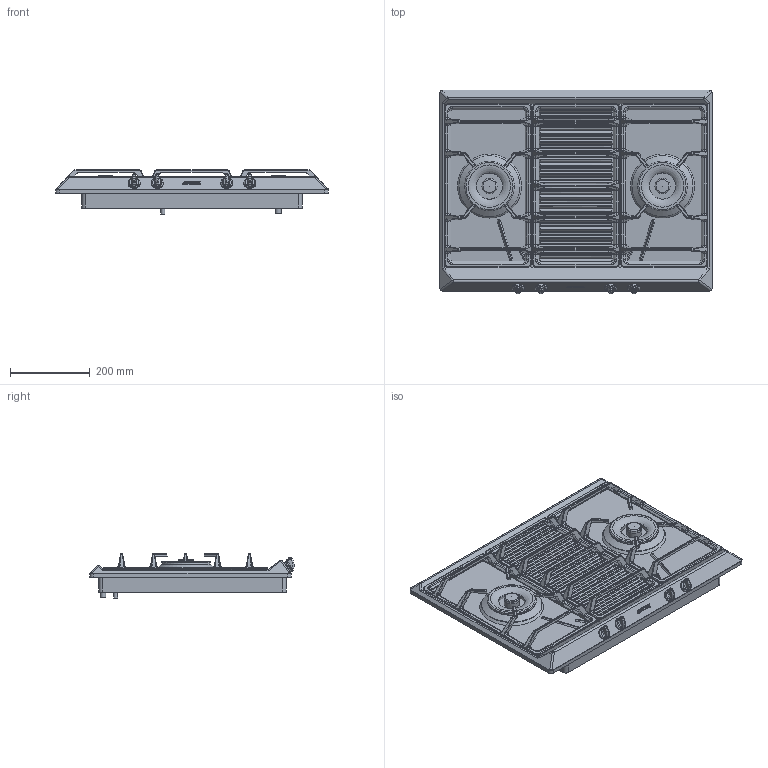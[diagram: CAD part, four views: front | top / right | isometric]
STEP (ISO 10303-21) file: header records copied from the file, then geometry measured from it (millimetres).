
FILE_DESCRIPTION(/* description */ (''),/* implementation_level */ '2;1');
FILE_NAME(/* name */ 'piano srv572xg.stp',/* time_stamp */ '2019-02-27T09:43:30+01:00',/* author */ (''),/* organization */ (''),/* preprocessor_version */ 'ST-DEVELOPER v16',/* originating_system */ 'SIEMENS PLM Software NX 11.0',/* authorisation */ '');
FILE_SCHEMA (('AUTOMOTIVE_DESIGN { 1 0 10303 214 3 1 1 1 }'));
Products named in the file (1): gobb2954E7A3krxe
Bounding box: 683 x 510.95 x 110.5 mm (x, y, z)
Volume: 16473073.8 mm3; surface area: 1840541 mm2
Topology: 25 solids, 25 shells, 1630 faces, 4095 edges, 2505 vertices
Faces by surface type: cylinder 649, plane 539, bspline 216, torus 127, cone 50, sphere 38, extrusion 11
Full cylindrical faces by diameter (mm): 3.988 x6, 7 x12, 10 x1, 14 x2, 20 x4, 22.3 x2, 23 x4, 30 x4, 38 x2, 65.6 x2, 111 x2, 113.5 x2, 122.009 x2, 152 x2
Entity records: 52412 total; most frequent: CARTESIAN_POINT 13841, DIRECTION 8297, ORIENTED_EDGE 7936, EDGE_CURVE 3968, AXIS2_PLACEMENT_3D 3224, VERTEX_POINT 2466, VECTOR 1849, LINE 1838
